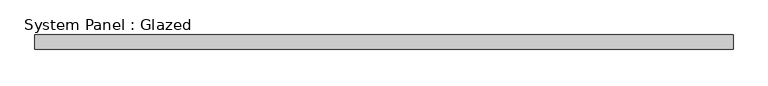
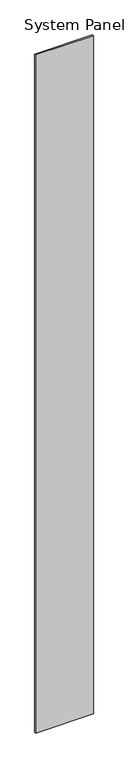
"""IFC4 building model written with IfcOpenShell, lengths in millimetres: plate geometry, System Panel : Glazed."""

from ifc_helpers import new_model, si_unit, origin, origin_with_axes, place, context, project, spatial, polyline, outline, extrude, source, transform, mapped, element, save


def system_panel_glazed_d00c2bb3(model_context):
    return source(origin(), model_context, "Body", "SweptSolid", [
        extrude(outline(polyline([(609.5367635, 19.05), (-609.5367635, 19.05), (-609.5367635, 44.45), (609.5367635, 44.45), (609.5367635, 19.05)])), origin_with_axes(), (0.0, 0.0, 1.0), 15087.6),
    ])


if __name__ == "__main__":
    model = new_model("IFC4")
    model_context = context("Model", 3, world=origin())
    ifc_project = project(units=[si_unit("LENGTHUNIT", "METRE", prefix="MILLI")], contexts=[model_context])
    site = spatial("IfcSite", under=ifc_project)
    building = spatial("IfcBuilding", under=site)
    placement = place(None, origin())
    system_panel_glazed_shape = system_panel_glazed_d00c2bb3(model_context)
    element("IfcPlate", 1, ObjectType="System Panel : Glazed", at=placement, inside=building, context=model_context, shape_type="MappedRepresentation", body=[
        mapped(system_panel_glazed_shape, transform((0.0, 0.0, 0.0), x_axis=(1.0, 0.0, 0.0), y_axis=(0.0, 1.0, 0.0), z_axis=(0.0, 0.0, 1.0))),
    ])
    save(model, "model.ifc")
